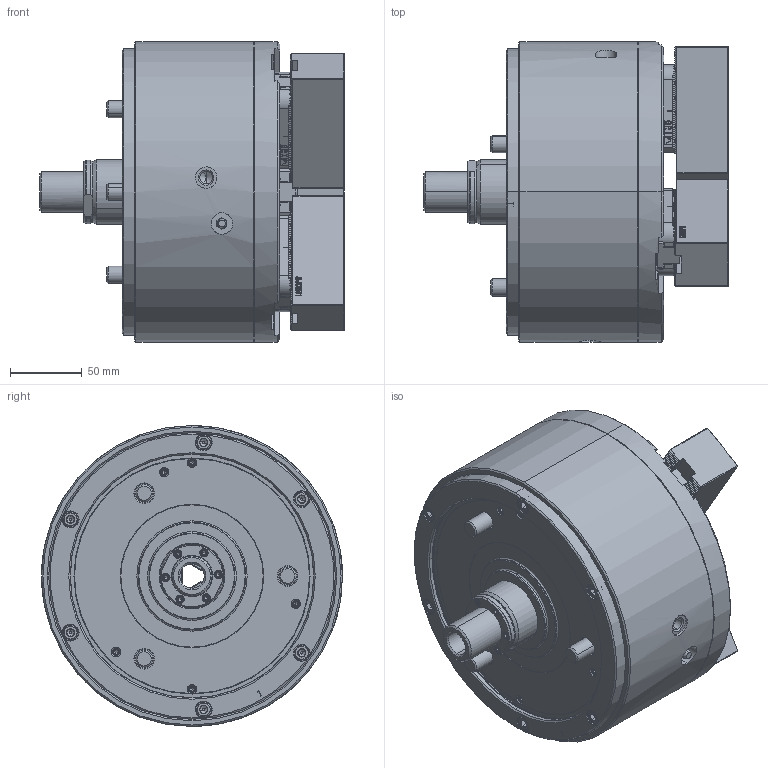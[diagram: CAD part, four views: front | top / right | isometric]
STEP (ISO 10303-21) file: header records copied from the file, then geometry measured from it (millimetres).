
FILE_DESCRIPTION (( 'STEP AP214' ), '1' );
FILE_NAME ('DL208_CL.STEP', '2022-09-07T07:32:07', ( '' ), ( '' ), 'SwSTEP 2.0', 'SolidWorks 2020', '' );
FILE_SCHEMA (( 'AUTOMOTIVE_DESIGN' ));
Length unit declared in the file: millimetre
Products named in the file (5): DL208_CL; 0030112030; 61P304291; 61P451466; 結合DL208_CL^DL208
Assembly tree (13 placements, depth 2):
  DL208_CL
    61P304291  x3
    61P451466  x3
    0030112030  x6
    結合DL208_CL^DL208
Bounding box: 212.8 x 210 x 210 mm (x, y, z)
Volume: 3998987.8 mm3; surface area: 329406.8 mm2
Topology: 13 solids, 50 shells, 7377 faces, 20431 edges, 13370 vertices
Faces by surface type: plane 3961, cylinder 1589, bspline 1166, cone 627, torus 34
Entity records: 218138 total; most frequent: CARTESIAN_POINT 81952, ORIENTED_EDGE 31678, DIRECTION 22855, EDGE_CURVE 15839, VERTEX_POINT 10427, LINE 10293, VECTOR 10293, AXIS2_PLACEMENT_3D 6281
